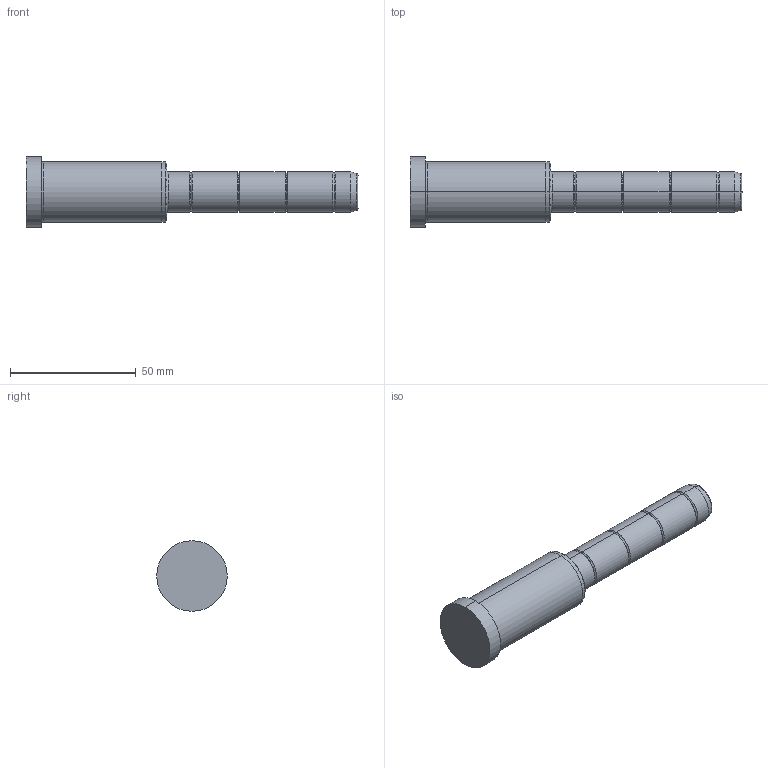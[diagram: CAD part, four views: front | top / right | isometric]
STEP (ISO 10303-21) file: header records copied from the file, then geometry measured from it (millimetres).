
FILE_DESCRIPTION( ( 'STEP AP203' ), '1' );
FILE_NAME( 'D:/Delta 3 D/D02/16/D02 - 16x56x76.step', '2003-01-04T13:10:01', ( ' ' ), ( ' ' ), 'XStep 1.0', ' ', ' ' );
FILE_SCHEMA( ( 'CONFIG_CONTROL_DESIGN' ) );
Length unit declared in the file: metre
Products named in the file (1): 1
Bounding box: 132 x 28 x 28 mm (x, y, z)
Volume: 41483.1 mm3; surface area: 9371.6 mm2
Topology: 1 solids, 1 shells, 48 faces, 94 edges, 52 vertices
Faces by surface type: bspline 26, revolution 22
Entity records: 1523 total; most frequent: CARTESIAN_POINT 617, ORIENTED_EDGE 188, DIRECTION 150, EDGE_CURVE 94, AXIS2_PLACEMENT_3D 53, EDGE_LOOP 52, VERTEX_POINT 52, CIRCLE 52
